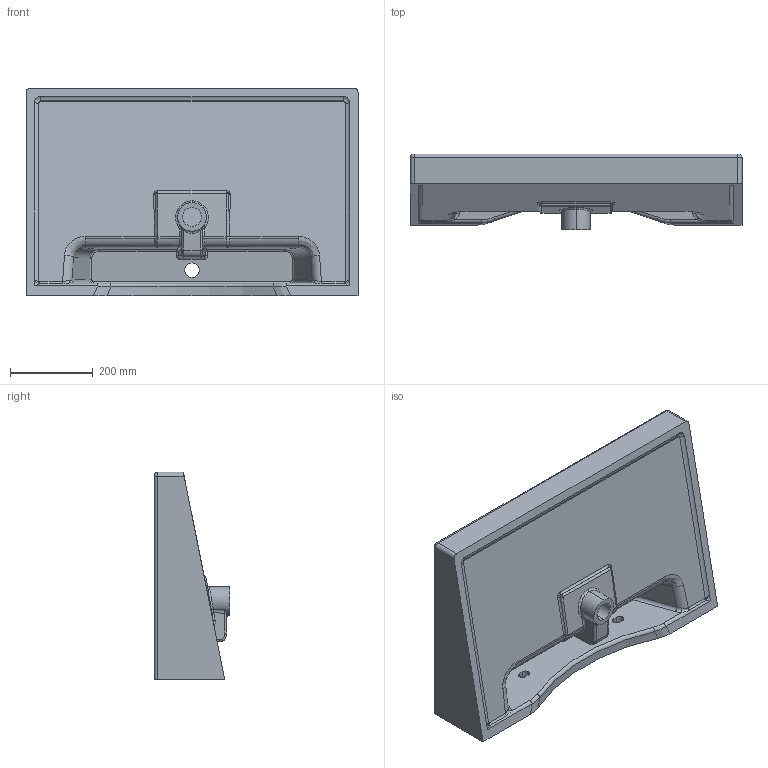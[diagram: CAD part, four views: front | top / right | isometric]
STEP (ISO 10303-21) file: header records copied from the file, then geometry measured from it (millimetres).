
FILE_DESCRIPTION (( 'STEP AP203' ), '1' );
FILE_NAME ('EP080 pop up.STEP', '2022-04-27T13:15:34', ( '' ), ( '' ), 'SwSTEP 2.0', 'SolidWorks 2021', '' );
FILE_SCHEMA (( 'CONFIG_CONTROL_DESIGN' ));
Length unit declared in the file: mil
Products named in the file (1): EP080 pop up
Bounding box: 800 x 182 x 500 mm (x, y, z)
Volume: 18441527 mm3; surface area: 1482754.4 mm2
Topology: 3 solids, 3 shells, 354 faces, 846 edges, 473 vertices
Faces by surface type: cylinder 146, bspline 80, plane 63, torus 37, sphere 26, cone 2
Entity records: 15069 total; most frequent: CARTESIAN_POINT 7456, ORIENTED_EDGE 1632, DIRECTION 1544, EDGE_CURVE 816, AXIS2_PLACEMENT_3D 620, VERTEX_POINT 471, EDGE_LOOP 367, ADVANCED_FACE 354
